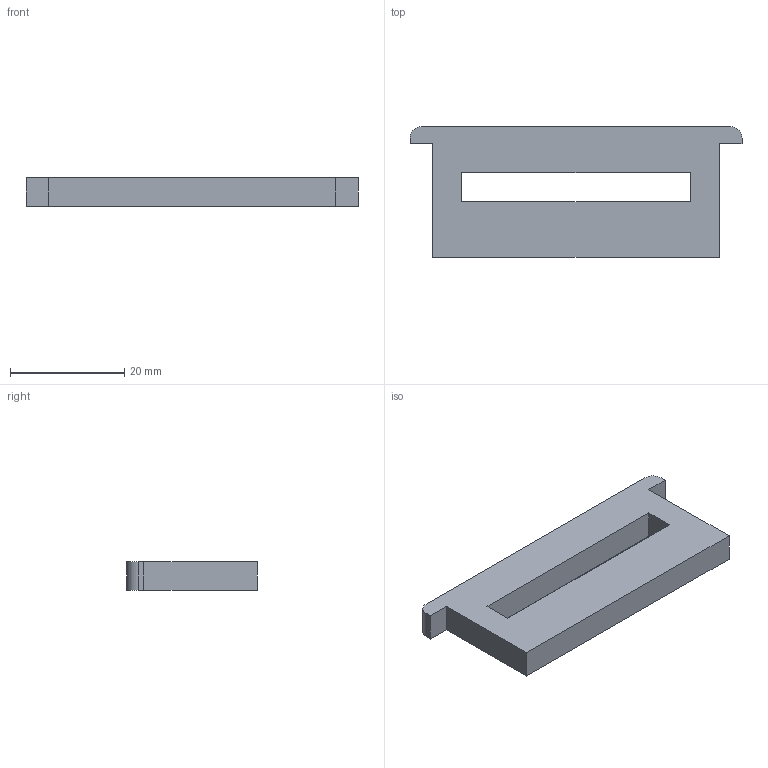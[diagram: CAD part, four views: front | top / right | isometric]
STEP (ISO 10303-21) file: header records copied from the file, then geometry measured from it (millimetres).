
FILE_DESCRIPTION(/* description */ (''),/* implementation_level */ '2;1');
FILE_NAME(/* name */ 'Z:\CAD Files\Development\Workspace\Easter Sale 24\EEH- Foot.stp',/* time_stamp */ '2024-02-29T10:33:06+11:00',/* author */ ('Tyler'),/* organization */ (''),/* preprocessor_version */ 'ST-DEVELOPER v17',/* originating_system */ 'Autodesk Inventor 2019',/* authorisation */ '');
FILE_SCHEMA (('AUTOMOTIVE_DESIGN { 1 0 10303 214 3 1 1 }'));
Length unit declared in the file: millimetre
Products named in the file (1): EEH- Foot
Bounding box: 58 x 22.8 x 5 mm (x, y, z)
Volume: 4791.4 mm3; surface area: 3167 mm2
Topology: 1 solids, 1 shells, 16 faces, 42 edges, 28 vertices
Faces by surface type: plane 14, cylinder 2
Entity records: 556 total; most frequent: CARTESIAN_POINT 87, ORIENTED_EDGE 84, DIRECTION 80, EDGE_CURVE 42, LINE 38, VECTOR 38, VERTEX_POINT 28, AXIS2_PLACEMENT_3D 21
